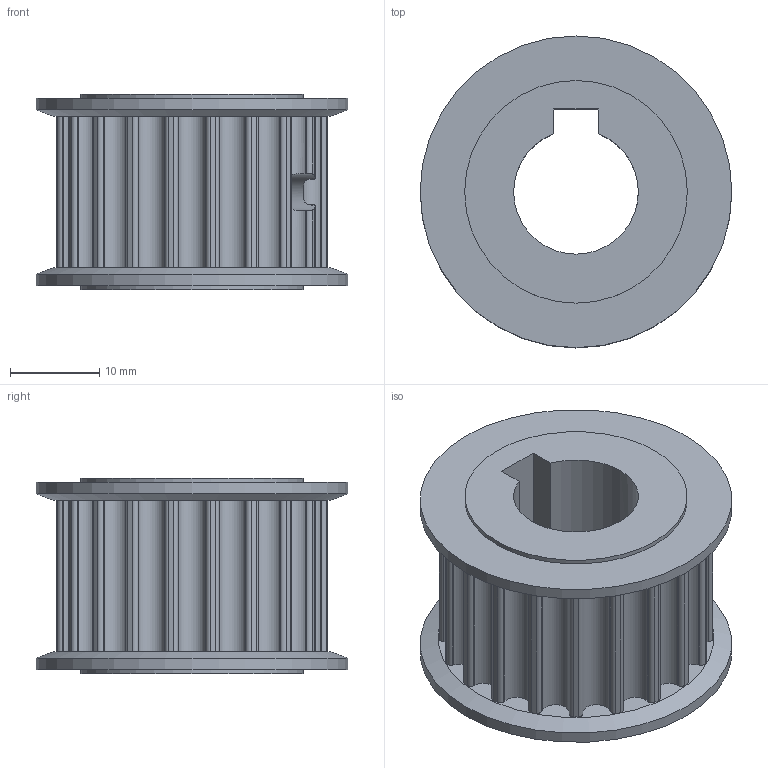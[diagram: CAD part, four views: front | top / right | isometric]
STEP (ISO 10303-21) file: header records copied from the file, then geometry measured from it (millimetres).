
FILE_DESCRIPTION(('STEP AP214'), '1');
FILE_NAME('BSY 20 5M-15 A N14 - 崹魤', '', ('UNSPECIFIED'), ('UNSPECIFIED'), 'ASCON STEP Converter 1.3', 'ASCON Math Kernel', '');
FILE_SCHEMA(('AUTOMOTIVE_DESIGN { 1 0 10303 214 3 1 1}'));
Length unit declared in the file: millimetre
Products named in the file (1): BSY 20 5M-15 A N14
Bounding box: 35 x 35 x 22 mm (x, y, z)
Volume: 10999.6 mm3; surface area: 6219.4 mm2
Topology: 1 solids, 1 shells, 146 faces, 424 edges, 282 vertices
Faces by surface type: cylinder 91, plane 53, cone 2
Full cylindrical faces by diameter (mm): 4.134 x2, 25 x2, 35 x2
Entity records: 6576 total; most frequent: CARTESIAN_POINT 1412, DIRECTION 860, ORIENTED_EDGE 832, EDGE_CURVE 416, AXIS2_PLACEMENT_3D 320, VERTEX_POINT 282, LINE 220, VECTOR 220
